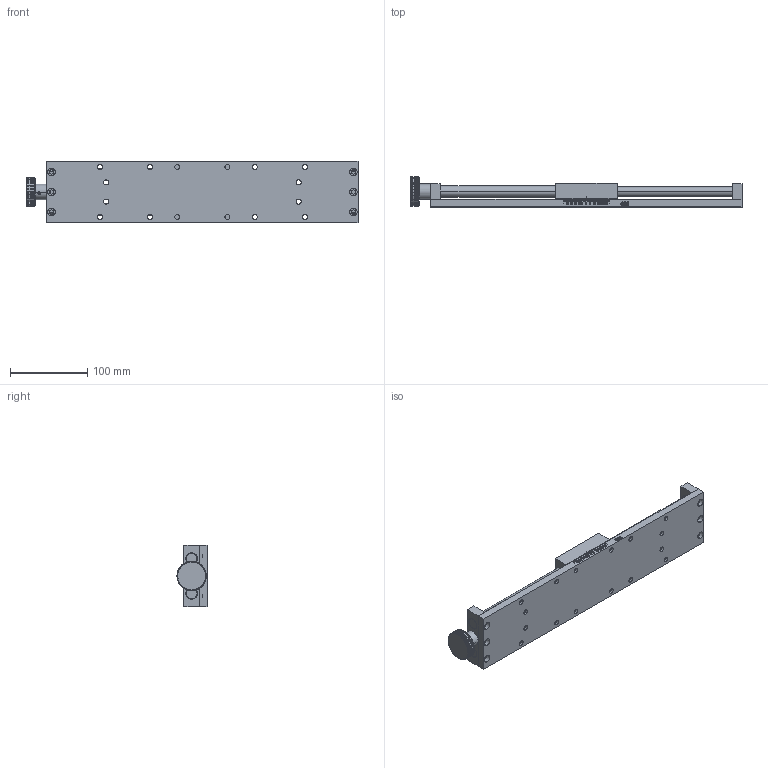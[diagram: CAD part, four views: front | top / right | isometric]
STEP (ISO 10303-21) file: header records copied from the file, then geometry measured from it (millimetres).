
FILE_DESCRIPTION (( 'STEP AP214' ), '1' );
FILE_NAME ('PT-ST300.STEP', '2022-08-21T08:39:47', ( '' ), ( '' ), 'SwSTEP 2.0', 'SolidWorks 2017', '' );
FILE_SCHEMA (( 'AUTOMOTIVE_DESIGN' ));
Length unit declared in the file: millimetre
Products named in the file (9): 唅聽38; 蹟裝; 賑輸; hex socket set screws with cone point gb_GB_FASTENER_SCREWS_HSCP M4X8-N; 粣1; 菁釱5; 菁釱; PT-ST300; 菁釱3
Assembly tree (13 placements, depth 2):
  PT-ST300
    菁釱
    菁釱3
    菁釱5
    賑輸
    粣1  x2
    蹟裝
    hex socket set screws with cone point gb_GB_FASTENER_SCREWS_HSCP M4X8-N  x5
    唅聽38
Bounding box: 431 x 39 x 80 mm (x, y, z)
Volume: 680044.1 mm3; surface area: 175724.9 mm2
Topology: 13 solids, 14 shells, 1598 faces, 4420 edges, 2912 vertices
Faces by surface type: plane 1026, bspline 292, cylinder 232, cone 48
Entity records: 61618 total; most frequent: CARTESIAN_POINT 24346, ORIENTED_EDGE 8420, DIRECTION 6178, EDGE_CURVE 4210, VERTEX_POINT 2800, LINE 2798, VECTOR 2798, AXIS2_PLACEMENT_3D 1690
